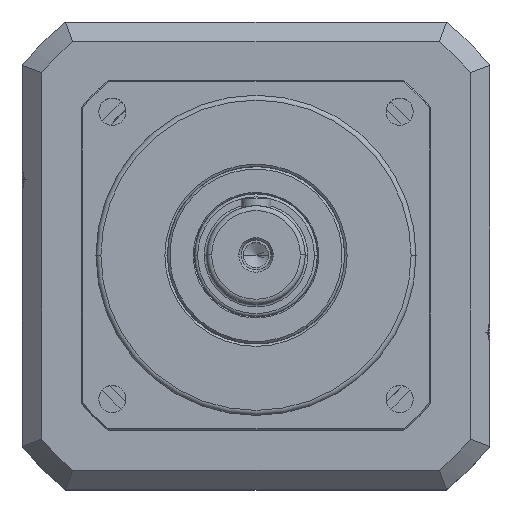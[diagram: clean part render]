
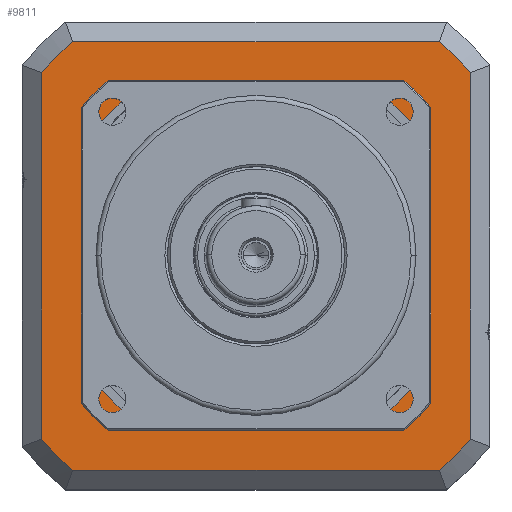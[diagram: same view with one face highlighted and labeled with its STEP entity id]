
A CAD part, top view. The second image highlights one B-rep face of the part: STEP entity #9811.
In plain terms, the highlighted planar face has unit normal (0, 0, 1).
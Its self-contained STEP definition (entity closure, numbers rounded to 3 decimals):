
#126 = DIRECTION ( 'NONE',  ( 0., 0., 1. ) ) ;
#164 = EDGE_CURVE ( 'NONE', #23941, #22359, #17601, .T. ) ;
#184 = DIRECTION ( 'NONE',  ( 0., 0., 1. ) ) ;
#411 = ORIENTED_EDGE ( 'NONE', *, *, #4781, .T. ) ;
#589 = AXIS2_PLACEMENT_3D ( 'NONE', #17235, #17378, #4427 ) ;
#608 = CIRCLE ( 'NONE', #4268, 114.5 ) ;
#978 = EDGE_CURVE ( 'NONE', #15833, #7835, #9168, .T. ) ;
#1048 = DIRECTION ( 'NONE',  ( 0., -1., 0. ) ) ;
#1474 = DIRECTION ( 'NONE',  ( 1., 0., 0. ) ) ;
#1553 = EDGE_CURVE ( 'NONE', #22829, #7491, #1606, .T. ) ;
#1606 = LINE ( 'NONE', #20728, #4683 ) ;
#1979 = DIRECTION ( 'NONE',  ( 1., 0., 0. ) ) ;
#2039 = EDGE_CURVE ( 'NONE', #22359, #10317, #22615, .T. ) ;
#2341 = EDGE_CURVE ( 'NONE', #7835, #12185, #608, .T. ) ;
#2868 = CARTESIAN_POINT ( 'NONE',  ( 0., 0., -133.5 ) ) ;
#2972 = AXIS2_PLACEMENT_3D ( 'NONE', #4945, #22343, #11432 ) ;
#3768 = DIRECTION ( 'NONE',  ( 0., 0., 1. ) ) ;
#4061 = VERTEX_POINT ( 'NONE', #10163 ) ;
#4268 = AXIS2_PLACEMENT_3D ( 'NONE', #2868, #26728, #17692 ) ;
#4427 = DIRECTION ( 'NONE',  ( 1., 0., 0. ) ) ;
#4573 = DIRECTION ( 'NONE',  ( 1., 0., 0. ) ) ;
#4683 = VECTOR ( 'NONE', #1048, 1000. ) ;
#4775 = ORIENTED_EDGE ( 'NONE', *, *, #1553, .F. ) ;
#4781 = EDGE_CURVE ( 'NONE', #12185, #17582, #24336, .T. ) ;
#4800 = AXIS2_PLACEMENT_3D ( 'NONE', #15502, #22661, #4573 ) ;
#4945 = CARTESIAN_POINT ( 'NONE',  ( 0., 0., -133.5 ) ) ;
#5226 = CIRCLE ( 'NONE', #24035, 83. ) ;
#5248 = ORIENTED_EDGE ( 'NONE', *, *, #20442, .F. ) ;
#5618 = LINE ( 'NONE', #14396, #22520 ) ;
#6073 = CIRCLE ( 'NONE', #22140, 114.5 ) ;
#6238 = ORIENTED_EDGE ( 'NONE', *, *, #164, .F. ) ;
#6568 = ORIENTED_EDGE ( 'NONE', *, *, #2341, .T. ) ;
#6944 = DIRECTION ( 'NONE',  ( 1., 0., 0. ) ) ;
#7491 = VERTEX_POINT ( 'NONE', #23699 ) ;
#7502 = VECTOR ( 'NONE', #9977, 1000. ) ;
#7835 = VERTEX_POINT ( 'NONE', #8298 ) ;
#7948 = CARTESIAN_POINT ( 'NONE',  ( 0., 0., -133.5 ) ) ;
#8298 = CARTESIAN_POINT ( 'NONE',  ( -74.44, 87., -133.5 ) ) ;
#8334 = VERTEX_POINT ( 'NONE', #12733 ) ;
#8348 = CARTESIAN_POINT ( 'NONE',  ( 0., 0., -133.5 ) ) ;
#8376 = ORIENTED_EDGE ( 'NONE', *, *, #9605, .T. ) ;
#8517 = FACE_BOUND ( 'NONE', #14355, .T. ) ;
#9168 = LINE ( 'NONE', #20503, #12091 ) ;
#9605 = EDGE_CURVE ( 'NONE', #21261, #15833, #16299, .T. ) ;
#9811 = ADVANCED_FACE ( 'NONE', ( #28191, #8517 ), #12700, .T. ) ;
#9851 = AXIS2_PLACEMENT_3D ( 'NONE', #10619, #126, #1979 ) ;
#9977 = DIRECTION ( 'NONE',  ( 1., 0., 0. ) ) ;
#10083 = DIRECTION ( 'NONE',  ( 0., 1., 0. ) ) ;
#10163 = CARTESIAN_POINT ( 'NONE',  ( -42.988, -71., -133.5 ) ) ;
#10317 = VERTEX_POINT ( 'NONE', #10809 ) ;
#10619 = CARTESIAN_POINT ( 'NONE',  ( 0., 0., -133.5 ) ) ;
#10780 = CARTESIAN_POINT ( 'NONE',  ( -87., -74.44, -133.5 ) ) ;
#10809 = CARTESIAN_POINT ( 'NONE',  ( 42.988, 71., -133.5 ) ) ;
#11188 = CARTESIAN_POINT ( 'NONE',  ( -42.988, 71., -133.5 ) ) ;
#11279 = EDGE_LOOP ( 'NONE', ( #18328, #13676, #12132, #8376, #25581, #6568, #411, #14721 ) ) ;
#11432 = DIRECTION ( 'NONE',  ( 1., 0., 0. ) ) ;
#11629 = CARTESIAN_POINT ( 'NONE',  ( -87., 74.44, -133.5 ) ) ;
#11778 = VECTOR ( 'NONE', #28172, 1000. ) ;
#12091 = VECTOR ( 'NONE', #26963, 1000. ) ;
#12132 = ORIENTED_EDGE ( 'NONE', *, *, #16467, .T. ) ;
#12147 = CARTESIAN_POINT ( 'NONE',  ( -71., 42.988, -133.5 ) ) ;
#12185 = VERTEX_POINT ( 'NONE', #11629 ) ;
#12273 = DIRECTION ( 'NONE',  ( 0., 0., 1. ) ) ;
#12669 = VECTOR ( 'NONE', #17030, 1000. ) ;
#12700 = PLANE ( 'NONE',  #27763 ) ;
#12733 = CARTESIAN_POINT ( 'NONE',  ( 42.988, -71., -133.5 ) ) ;
#12820 = DIRECTION ( 'NONE',  ( 0., 0., 1. ) ) ;
#12825 = CARTESIAN_POINT ( 'NONE',  ( 77.339, -87., -133.5 ) ) ;
#13306 = CARTESIAN_POINT ( 'NONE',  ( 71., 42.988, -133.5 ) ) ;
#13398 = DIRECTION ( 'NONE',  ( 1., 0., 0. ) ) ;
#13438 = CARTESIAN_POINT ( 'NONE',  ( -87., -77.339, -133.5 ) ) ;
#13676 = ORIENTED_EDGE ( 'NONE', *, *, #22133, .T. ) ;
#14162 = ORIENTED_EDGE ( 'NONE', *, *, #15963, .F. ) ;
#14305 = ORIENTED_EDGE ( 'NONE', *, *, #21736, .F. ) ;
#14355 = EDGE_LOOP ( 'NONE', ( #4775, #25716, #24787, #20117, #6238, #14305, #5248, #14162 ) ) ;
#14396 = CARTESIAN_POINT ( 'NONE',  ( 87., 77.339, -133.5 ) ) ;
#14721 = ORIENTED_EDGE ( 'NONE', *, *, #19576, .T. ) ;
#15194 = VERTEX_POINT ( 'NONE', #25259 ) ;
#15261 = EDGE_CURVE ( 'NONE', #10317, #22402, #16651, .T. ) ;
#15502 = CARTESIAN_POINT ( 'NONE',  ( 0., 0., -133.5 ) ) ;
#15833 = VERTEX_POINT ( 'NONE', #28083 ) ;
#15959 = CARTESIAN_POINT ( 'NONE',  ( 87., 74.44, -133.5 ) ) ;
#15963 = EDGE_CURVE ( 'NONE', #7491, #4061, #18388, .T. ) ;
#16207 = CARTESIAN_POINT ( 'NONE',  ( -42.988, 71., -133.5 ) ) ;
#16299 = CIRCLE ( 'NONE', #2972, 114.5 ) ;
#16301 = CARTESIAN_POINT ( 'NONE',  ( -42.988, -71., -133.5 ) ) ;
#16467 = EDGE_CURVE ( 'NONE', #19495, #21261, #5618, .T. ) ;
#16651 = LINE ( 'NONE', #11188, #16914 ) ;
#16734 = CARTESIAN_POINT ( 'NONE',  ( 71., -42.988, -133.5 ) ) ;
#16914 = VECTOR ( 'NONE', #17219, 1000. ) ;
#17030 = DIRECTION ( 'NONE',  ( 0., 1., 0. ) ) ;
#17219 = DIRECTION ( 'NONE',  ( -1., 0., 0. ) ) ;
#17235 = CARTESIAN_POINT ( 'NONE',  ( 0., 0., -133.5 ) ) ;
#17290 = CARTESIAN_POINT ( 'NONE',  ( 0., 0., -133.5 ) ) ;
#17378 = DIRECTION ( 'NONE',  ( 0., 0., 1. ) ) ;
#17582 = VERTEX_POINT ( 'NONE', #10780 ) ;
#17601 = LINE ( 'NONE', #13306, #12669 ) ;
#17692 = DIRECTION ( 'NONE',  ( 1., 0., 0. ) ) ;
#18000 = CARTESIAN_POINT ( 'NONE',  ( 87., -74.44, -133.5 ) ) ;
#18328 = ORIENTED_EDGE ( 'NONE', *, *, #22952, .T. ) ;
#18388 = CIRCLE ( 'NONE', #28006, 83. ) ;
#18478 = VERTEX_POINT ( 'NONE', #23820 ) ;
#19495 = VERTEX_POINT ( 'NONE', #18000 ) ;
#19576 = EDGE_CURVE ( 'NONE', #17582, #18478, #6073, .T. ) ;
#19867 = CARTESIAN_POINT ( 'NONE',  ( 0., 0., -133.5 ) ) ;
#20117 = ORIENTED_EDGE ( 'NONE', *, *, #2039, .F. ) ;
#20442 = EDGE_CURVE ( 'NONE', #4061, #8334, #22764, .T. ) ;
#20503 = CARTESIAN_POINT ( 'NONE',  ( -77.339, 87., -133.5 ) ) ;
#20728 = CARTESIAN_POINT ( 'NONE',  ( -71., 42.988, -133.5 ) ) ;
#21261 = VERTEX_POINT ( 'NONE', #15959 ) ;
#21736 = EDGE_CURVE ( 'NONE', #8334, #23941, #5226, .T. ) ;
#22133 = EDGE_CURVE ( 'NONE', #15194, #19495, #22243, .T. ) ;
#22140 = AXIS2_PLACEMENT_3D ( 'NONE', #19867, #184, #6944 ) ;
#22243 = CIRCLE ( 'NONE', #9851, 114.5 ) ;
#22244 = EDGE_CURVE ( 'NONE', #22402, #22829, #26353, .T. ) ;
#22343 = DIRECTION ( 'NONE',  ( 0., 0., 1. ) ) ;
#22359 = VERTEX_POINT ( 'NONE', #24403 ) ;
#22402 = VERTEX_POINT ( 'NONE', #16207 ) ;
#22520 = VECTOR ( 'NONE', #10083, 1000. ) ;
#22615 = CIRCLE ( 'NONE', #589, 83. ) ;
#22661 = DIRECTION ( 'NONE',  ( 0., 0., 1. ) ) ;
#22764 = LINE ( 'NONE', #16301, #7502 ) ;
#22829 = VERTEX_POINT ( 'NONE', #12147 ) ;
#22952 = EDGE_CURVE ( 'NONE', #18478, #15194, #24300, .T. ) ;
#23699 = CARTESIAN_POINT ( 'NONE',  ( -71., -42.988, -133.5 ) ) ;
#23820 = CARTESIAN_POINT ( 'NONE',  ( -74.44, -87., -133.5 ) ) ;
#23941 = VERTEX_POINT ( 'NONE', #16734 ) ;
#24035 = AXIS2_PLACEMENT_3D ( 'NONE', #8348, #12820, #13398 ) ;
#24300 = LINE ( 'NONE', #12825, #11778 ) ;
#24336 = LINE ( 'NONE', #13438, #27509 ) ;
#24403 = CARTESIAN_POINT ( 'NONE',  ( 71., 42.988, -133.5 ) ) ;
#24787 = ORIENTED_EDGE ( 'NONE', *, *, #15261, .F. ) ;
#25259 = CARTESIAN_POINT ( 'NONE',  ( 74.44, -87., -133.5 ) ) ;
#25581 = ORIENTED_EDGE ( 'NONE', *, *, #978, .T. ) ;
#25716 = ORIENTED_EDGE ( 'NONE', *, *, #22244, .F. ) ;
#26353 = CIRCLE ( 'NONE', #4800, 83. ) ;
#26632 = DIRECTION ( 'NONE',  ( 0., -1., 0. ) ) ;
#26728 = DIRECTION ( 'NONE',  ( 0., 0., 1. ) ) ;
#26963 = DIRECTION ( 'NONE',  ( -1., 0., 0. ) ) ;
#27509 = VECTOR ( 'NONE', #26632, 1000. ) ;
#27763 = AXIS2_PLACEMENT_3D ( 'NONE', #17290, #3768, #28045 ) ;
#28006 = AXIS2_PLACEMENT_3D ( 'NONE', #7948, #12273, #1474 ) ;
#28045 = DIRECTION ( 'NONE',  ( 1., 0., 0. ) ) ;
#28083 = CARTESIAN_POINT ( 'NONE',  ( 74.44, 87., -133.5 ) ) ;
#28172 = DIRECTION ( 'NONE',  ( 1., 0., 0. ) ) ;
#28191 = FACE_OUTER_BOUND ( 'NONE', #11279, .T. ) ;
